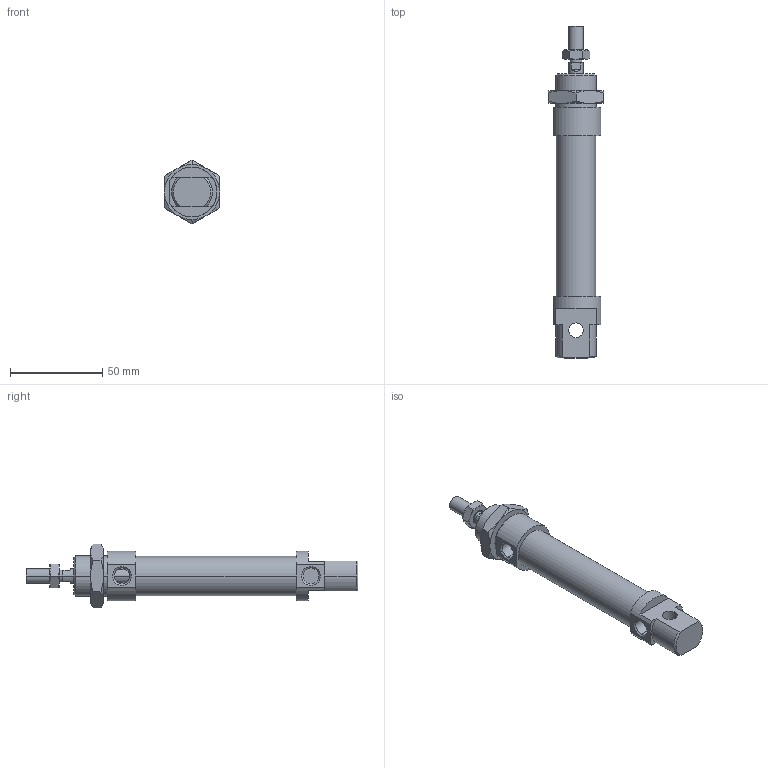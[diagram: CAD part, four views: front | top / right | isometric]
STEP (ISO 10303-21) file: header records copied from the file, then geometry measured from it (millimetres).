
FILE_DESCRIPTION((''),'2;1');
FILE_NAME('I:\DOC-EDP\Lib-3d\1200\CILINDRI\1280\1280_20_0050.stp','2003-04-07T15:50:09',('maffial1'),(''),'Autodesk Inventor (R) 6.0','Autodesk Inventor (R) 6.0','');
FILE_SCHEMA(('AUTOMOTIVE_DESIGN { 1 0 10303 214 1 1 1 1 }'));
Length unit declared in the file: millimetre
Products named in the file (5): 1280_20_0050; S1280_20_50; 1200_20_05; 1200_20_06; C1280_20_50
Assembly tree (4 placements, depth 2):
  1280_20_0050
    S1280_20_50
    1200_20_05
    1200_20_06
    C1280_20_50
Bounding box: 30 x 180 x 34.64 mm (x, y, z)
Volume: 62006.2 mm3; surface area: 20374.8 mm2
Topology: 4 solids, 4 shells, 124 faces, 281 edges, 170 vertices
Faces by surface type: plane 41, cone 40, cylinder 22, bspline 21
Entity records: 3816 total; most frequent: CARTESIAN_POINT 1039, DIRECTION 573, ORIENTED_EDGE 562, EDGE_CURVE 281, AXIS2_PLACEMENT_3D 236, VERTEX_POINT 170, EDGE_LOOP 137, FACE_OUTER_BOUND 124
